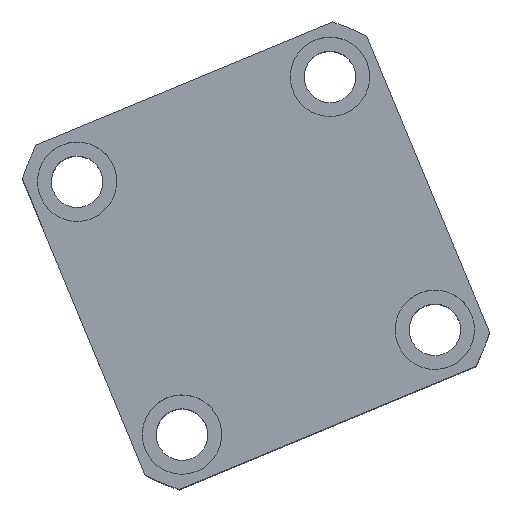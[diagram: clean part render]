
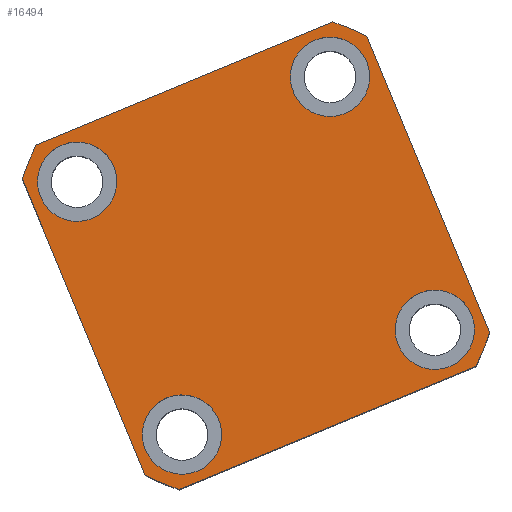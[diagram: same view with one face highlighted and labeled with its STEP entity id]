
A CAD part, top view. The second image highlights one B-rep face of the part: STEP entity #16494.
In plain terms, the highlighted planar face has unit normal (0, 0, 1) as drawn and (0, 0, -1) by its records, which use the part's own axes.
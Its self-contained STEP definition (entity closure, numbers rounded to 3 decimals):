
#32 = DIRECTION ( 'NONE',  ( 0., 0., -1. ) ) ;
#44 = VERTEX_POINT ( 'NONE', #22042 ) ;
#388 = ORIENTED_EDGE ( 'NONE', *, *, #7753, .F. ) ;
#757 = DIRECTION ( 'NONE',  ( -1., 0., 0. ) ) ;
#892 = AXIS2_PLACEMENT_3D ( 'NONE', #8684, #20788, #10430 ) ;
#960 = CIRCLE ( 'NONE', #892, 10. ) ;
#1113 = ORIENTED_EDGE ( 'NONE', *, *, #16888, .F. ) ;
#1122 = EDGE_CURVE ( 'NONE', #3081, #15661, #10089, .T. ) ;
#1207 = DIRECTION ( 'NONE',  ( 0., 1., 0. ) ) ;
#1219 = VERTEX_POINT ( 'NONE', #11954 ) ;
#1258 = FACE_BOUND ( 'NONE', #18792, .T. ) ;
#1281 = DIRECTION ( 'NONE',  ( 0., 0., -1. ) ) ;
#1541 = ORIENTED_EDGE ( 'NONE', *, *, #6733, .F. ) ;
#1979 = CARTESIAN_POINT ( 'NONE',  ( -40.435, 47., 0. ) ) ;
#2016 = CIRCLE ( 'NONE', #21219, 10. ) ;
#2754 = CIRCLE ( 'NONE', #8977, 62. ) ;
#3081 = VERTEX_POINT ( 'NONE', #3407 ) ;
#3158 = DIRECTION ( 'NONE',  ( 1., 0., 0. ) ) ;
#3407 = CARTESIAN_POINT ( 'NONE',  ( 24.5, 34.5, 0. ) ) ;
#3607 = ORIENTED_EDGE ( 'NONE', *, *, #6405, .F. ) ;
#3807 = VECTOR ( 'NONE', #16106, 1000. ) ;
#3903 = CARTESIAN_POINT ( 'NONE',  ( 47., -40.435, 0. ) ) ;
#3912 = VERTEX_POINT ( 'NONE', #10002 ) ;
#3984 = CARTESIAN_POINT ( 'NONE',  ( 34.5, -34.5, 0. ) ) ;
#4607 = VERTEX_POINT ( 'NONE', #19821 ) ;
#4775 = VERTEX_POINT ( 'NONE', #13087 ) ;
#4777 = CARTESIAN_POINT ( 'NONE',  ( -34.5, -34.5, 0. ) ) ;
#4879 = DIRECTION ( 'NONE',  ( 0., 0., 1. ) ) ;
#5121 = CIRCLE ( 'NONE', #11497, 10. ) ;
#5244 = VERTEX_POINT ( 'NONE', #1979 ) ;
#5327 = VERTEX_POINT ( 'NONE', #17673 ) ;
#5470 = PLANE ( 'NONE',  #14492 ) ;
#5553 = DIRECTION ( 'NONE',  ( 0., 0., 1. ) ) ;
#5701 = LINE ( 'NONE', #21812, #14341 ) ;
#5710 = DIRECTION ( 'NONE',  ( -1., 0., 0. ) ) ;
#5745 = CARTESIAN_POINT ( 'NONE',  ( -47., 47., 0. ) ) ;
#5786 = EDGE_LOOP ( 'NONE', ( #15427, #17045 ) ) ;
#5945 = CIRCLE ( 'NONE', #8555, 10. ) ;
#6066 = DIRECTION ( 'NONE',  ( 0., 0., 1. ) ) ;
#6313 = AXIS2_PLACEMENT_3D ( 'NONE', #18850, #8484, #20581 ) ;
#6405 = EDGE_CURVE ( 'NONE', #44, #7180, #18154, .T. ) ;
#6505 = DIRECTION ( 'NONE',  ( -1., 0., 0. ) ) ;
#6613 = CARTESIAN_POINT ( 'NONE',  ( -47., -47., 0. ) ) ;
#6721 = EDGE_CURVE ( 'NONE', #7180, #4607, #7307, .T. ) ;
#6733 = EDGE_CURVE ( 'NONE', #15887, #14739, #2754, .T. ) ;
#7088 = AXIS2_PLACEMENT_3D ( 'NONE', #15229, #4879, #16963 ) ;
#7180 = VERTEX_POINT ( 'NONE', #18550 ) ;
#7307 = CIRCLE ( 'NONE', #12463, 62. ) ;
#7366 = AXIS2_PLACEMENT_3D ( 'NONE', #10331, #32, #12084 ) ;
#7393 = ORIENTED_EDGE ( 'NONE', *, *, #16864, .F. ) ;
#7753 = EDGE_CURVE ( 'NONE', #9223, #4775, #5945, .T. ) ;
#7995 = DIRECTION ( 'NONE',  ( 0., 0., 1. ) ) ;
#8249 = LINE ( 'NONE', #6613, #11748 ) ;
#8322 = DIRECTION ( 'NONE',  ( 0., 0., -1. ) ) ;
#8385 = CARTESIAN_POINT ( 'NONE',  ( -47., 47., 0. ) ) ;
#8484 = DIRECTION ( 'NONE',  ( 0., 0., -1. ) ) ;
#8527 = EDGE_LOOP ( 'NONE', ( #7393, #12706, #1541, #1113, #20678, #3607, #21519, #18933 ) ) ;
#8555 = AXIS2_PLACEMENT_3D ( 'NONE', #11596, #1281, #13326 ) ;
#8684 = CARTESIAN_POINT ( 'NONE',  ( -34.5, 34.5, 0. ) ) ;
#8768 = EDGE_CURVE ( 'NONE', #1219, #20670, #5121, .T. ) ;
#8970 = EDGE_CURVE ( 'NONE', #3912, #5244, #18389, .T. ) ;
#8977 = AXIS2_PLACEMENT_3D ( 'NONE', #9533, #21637, #11285 ) ;
#9223 = VERTEX_POINT ( 'NONE', #10941 ) ;
#9325 = FACE_OUTER_BOUND ( 'NONE', #8527, .T. ) ;
#9533 = CARTESIAN_POINT ( 'NONE',  ( 0., 0., 0. ) ) ;
#9621 = AXIS2_PLACEMENT_3D ( 'NONE', #18680, #8322, #20419 ) ;
#9901 = CARTESIAN_POINT ( 'NONE',  ( 24.5, -34.5, 0. ) ) ;
#10002 = CARTESIAN_POINT ( 'NONE',  ( 40.435, 47., 0. ) ) ;
#10089 = CIRCLE ( 'NONE', #6313, 10. ) ;
#10185 = DIRECTION ( 'NONE',  ( -1., 0., 0. ) ) ;
#10331 = CARTESIAN_POINT ( 'NONE',  ( -34.5, -34.5, 0. ) ) ;
#10345 = CIRCLE ( 'NONE', #7366, 10. ) ;
#10396 = FACE_BOUND ( 'NONE', #17394, .T. ) ;
#10430 = DIRECTION ( 'NONE',  ( -1., 0., 0. ) ) ;
#10909 = VERTEX_POINT ( 'NONE', #16077 ) ;
#10941 = CARTESIAN_POINT ( 'NONE',  ( -44.5, 34.5, 0. ) ) ;
#11060 = DIRECTION ( 'NONE',  ( 0., 0., -1. ) ) ;
#11068 = ORIENTED_EDGE ( 'NONE', *, *, #16599, .F. ) ;
#11285 = DIRECTION ( 'NONE',  ( 1., 0., 0. ) ) ;
#11315 = EDGE_CURVE ( 'NONE', #14739, #5327, #5701, .T. ) ;
#11497 = AXIS2_PLACEMENT_3D ( 'NONE', #4777, #16847, #6505 ) ;
#11596 = CARTESIAN_POINT ( 'NONE',  ( -34.5, 34.5, 0. ) ) ;
#11748 = VECTOR ( 'NONE', #3158, 1000. ) ;
#11954 = CARTESIAN_POINT ( 'NONE',  ( -44.5, -34.5, 0. ) ) ;
#12084 = DIRECTION ( 'NONE',  ( -1., 0., 0. ) ) ;
#12463 = AXIS2_PLACEMENT_3D ( 'NONE', #16425, #6066, #18169 ) ;
#12706 = ORIENTED_EDGE ( 'NONE', *, *, #11315, .F. ) ;
#12839 = ORIENTED_EDGE ( 'NONE', *, *, #13549, .F. ) ;
#13087 = CARTESIAN_POINT ( 'NONE',  ( -24.5, 34.5, 0. ) ) ;
#13178 = ORIENTED_EDGE ( 'NONE', *, *, #19131, .F. ) ;
#13246 = EDGE_CURVE ( 'NONE', #10909, #15827, #16856, .T. ) ;
#13326 = DIRECTION ( 'NONE',  ( -1., 0., 0. ) ) ;
#13382 = CIRCLE ( 'NONE', #17982, 10. ) ;
#13384 = CARTESIAN_POINT ( 'NONE',  ( 40.435, -47., 0. ) ) ;
#13549 = EDGE_CURVE ( 'NONE', #15661, #3081, #2016, .T. ) ;
#13582 = CIRCLE ( 'NONE', #16935, 62. ) ;
#13670 = ORIENTED_EDGE ( 'NONE', *, *, #13246, .F. ) ;
#13914 = FACE_BOUND ( 'NONE', #5786, .T. ) ;
#14302 = VECTOR ( 'NONE', #10185, 1000. ) ;
#14341 = VECTOR ( 'NONE', #1207, 1000. ) ;
#14492 = AXIS2_PLACEMENT_3D ( 'NONE', #15913, #5553, #17650 ) ;
#14678 = CARTESIAN_POINT ( 'NONE',  ( 44.5, 34.5, 0. ) ) ;
#14739 = VERTEX_POINT ( 'NONE', #3903 ) ;
#15229 = CARTESIAN_POINT ( 'NONE',  ( 0., 0., 0. ) ) ;
#15427 = ORIENTED_EDGE ( 'NONE', *, *, #8768, .F. ) ;
#15661 = VERTEX_POINT ( 'NONE', #14678 ) ;
#15827 = VERTEX_POINT ( 'NONE', #9901 ) ;
#15887 = VERTEX_POINT ( 'NONE', #13384 ) ;
#15913 = CARTESIAN_POINT ( 'NONE',  ( 0., 0., 0. ) ) ;
#16069 = DIRECTION ( 'NONE',  ( 0., 0., -1. ) ) ;
#16077 = CARTESIAN_POINT ( 'NONE',  ( 44.5, -34.5, 0. ) ) ;
#16106 = DIRECTION ( 'NONE',  ( 0., -1., 0. ) ) ;
#16425 = CARTESIAN_POINT ( 'NONE',  ( 0., 0., 0. ) ) ;
#16494 = ADVANCED_FACE ( 'NONE', ( #10396, #13914, #1258, #18539, #9325 ), #5470, .F. ) ;
#16599 = EDGE_CURVE ( 'NONE', #15827, #10909, #13382, .T. ) ;
#16847 = DIRECTION ( 'NONE',  ( 0., 0., -1. ) ) ;
#16856 = CIRCLE ( 'NONE', #9621, 10. ) ;
#16864 = EDGE_CURVE ( 'NONE', #5327, #3912, #20937, .T. ) ;
#16888 = EDGE_CURVE ( 'NONE', #4607, #15887, #8249, .T. ) ;
#16935 = AXIS2_PLACEMENT_3D ( 'NONE', #18350, #7995, #20089 ) ;
#16963 = DIRECTION ( 'NONE',  ( 1., 0., 0. ) ) ;
#17045 = ORIENTED_EDGE ( 'NONE', *, *, #19705, .F. ) ;
#17394 = EDGE_LOOP ( 'NONE', ( #11068, #13670 ) ) ;
#17650 = DIRECTION ( 'NONE',  ( 1., 0., 0. ) ) ;
#17673 = CARTESIAN_POINT ( 'NONE',  ( 47., 40.435, 0. ) ) ;
#17756 = ORIENTED_EDGE ( 'NONE', *, *, #1122, .F. ) ;
#17982 = AXIS2_PLACEMENT_3D ( 'NONE', #3984, #16069, #5710 ) ;
#18154 = LINE ( 'NONE', #5745, #3807 ) ;
#18169 = DIRECTION ( 'NONE',  ( 1., 0., 0. ) ) ;
#18350 = CARTESIAN_POINT ( 'NONE',  ( 0., 0., 0. ) ) ;
#18389 = LINE ( 'NONE', #8385, #14302 ) ;
#18539 = FACE_BOUND ( 'NONE', #19830, .T. ) ;
#18550 = CARTESIAN_POINT ( 'NONE',  ( -47., -40.435, 0. ) ) ;
#18680 = CARTESIAN_POINT ( 'NONE',  ( 34.5, -34.5, 0. ) ) ;
#18792 = EDGE_LOOP ( 'NONE', ( #388, #13178 ) ) ;
#18850 = CARTESIAN_POINT ( 'NONE',  ( 34.5, 34.5, 0. ) ) ;
#18933 = ORIENTED_EDGE ( 'NONE', *, *, #8970, .F. ) ;
#19131 = EDGE_CURVE ( 'NONE', #4775, #9223, #960, .T. ) ;
#19705 = EDGE_CURVE ( 'NONE', #20670, #1219, #10345, .T. ) ;
#19821 = CARTESIAN_POINT ( 'NONE',  ( -40.435, -47., 0. ) ) ;
#19830 = EDGE_LOOP ( 'NONE', ( #17756, #12839 ) ) ;
#20089 = DIRECTION ( 'NONE',  ( 1., 0., 0. ) ) ;
#20419 = DIRECTION ( 'NONE',  ( -1., 0., 0. ) ) ;
#20581 = DIRECTION ( 'NONE',  ( -1., 0., 0. ) ) ;
#20670 = VERTEX_POINT ( 'NONE', #22127 ) ;
#20678 = ORIENTED_EDGE ( 'NONE', *, *, #6721, .F. ) ;
#20788 = DIRECTION ( 'NONE',  ( 0., 0., -1. ) ) ;
#20937 = CIRCLE ( 'NONE', #7088, 62. ) ;
#21219 = AXIS2_PLACEMENT_3D ( 'NONE', #21421, #11060, #757 ) ;
#21363 = EDGE_CURVE ( 'NONE', #5244, #44, #13582, .T. ) ;
#21421 = CARTESIAN_POINT ( 'NONE',  ( 34.5, 34.5, 0. ) ) ;
#21519 = ORIENTED_EDGE ( 'NONE', *, *, #21363, .F. ) ;
#21637 = DIRECTION ( 'NONE',  ( 0., 0., 1. ) ) ;
#21812 = CARTESIAN_POINT ( 'NONE',  ( 47., 47., 0. ) ) ;
#22042 = CARTESIAN_POINT ( 'NONE',  ( -47., 40.435, 0. ) ) ;
#22127 = CARTESIAN_POINT ( 'NONE',  ( -24.5, -34.5, 0. ) ) ;
